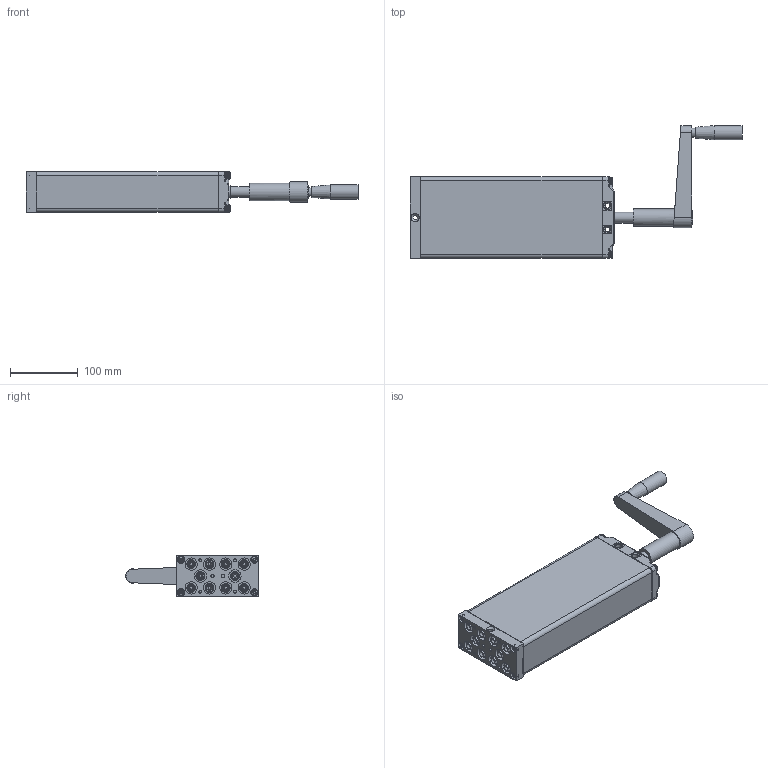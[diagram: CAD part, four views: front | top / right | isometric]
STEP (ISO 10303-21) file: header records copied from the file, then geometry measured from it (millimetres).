
FILE_DESCRIPTION(/* description */ ('Unknown'),/* implementation_level */ '2;1');
FILE_NAME(/* name */ '312.20281 Pumpe PB 0815 W mit Handkurbel',/* time_stamp */ '2016-11-03T10:18:50+01:00',/* author */ ('Unknown'),/* organization */ ('Unknown'),/* preprocessor_version */ 'ST-DEVELOPER v16.7',/* originating_system */ 'DEX',/* authorisation */ $);
FILE_SCHEMA (('AUTOMOTIVE_DESIGN {1 0 10303 214 3 1 1}'));
Products named in the file (23): 102.00281; 115.10031; 125.00061; 115.00008; 142.00021; 125.00021; 113.00005; 128.00001; 125.00052; 126.00013; 125.00053; 127.00014; Handgriff; 142.00013; 125.00141; 115.00140; 126.00006; 122.00040; 119.00041; 126.00036; 142.00057; 142.00083; 142.00017
Assembly tree (42 placements, depth 3):
  102.00281
    115.10031  x10
      125.00061
      115.00008
      142.00021
      125.00021
    113.00005
      128.00001
      125.00052
      126.00013
      125.00053
      127.00014
      Handgriff
    142.00013  x8
    125.00141
    115.00140
      126.00006
      122.00040
    119.00041
    126.00036
    142.00057
    142.00083  x4
    142.00017  x2
Bounding box: 488.75 x 195.5 x 60.3 mm (x, y, z)
Volume: 611391.1 mm3; surface area: 348351.4 mm2
Topology: 56 solids, 56 shells, 2345 faces, 5307 edges, 3122 vertices
Faces by surface type: plane 863, cylinder 536, cone 390, bspline 380, torus 116, sphere 60
Full cylindrical faces by diameter (mm): 3.5 x10, 4 x2, 4.1 x10, 4.134 x4, 4.2 x11, 4.917 x4, 5 x12, 5.8 x4, 6 x2, 6.8 x1, 6.917 x20, 8 x22, 8.5 x4, 9.8 x8, 10 x6, 10.4 x1, 10.5 x4, 12.5 x10, 12.8 x1, 13 x31, 14 x1, 14.4 x10, 16 x2, 17 x1, 17.9 x20, 18 x11, 19 x1, 20.6 x1, 21 x1, 22 x1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
Entity records: 64139 total; most frequent: CARTESIAN_POINT 30515, ORIENTED_EDGE 5372, DIRECTION 4831, EDGE_CURVE 2686, AXIS2_PLACEMENT_3D 1882, VERTEX_POINT 1711, FACE_BOUND 1545, EDGE_LOOP 1542
